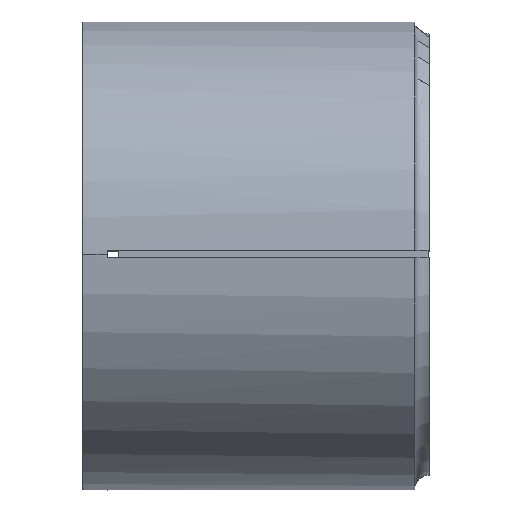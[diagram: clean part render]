
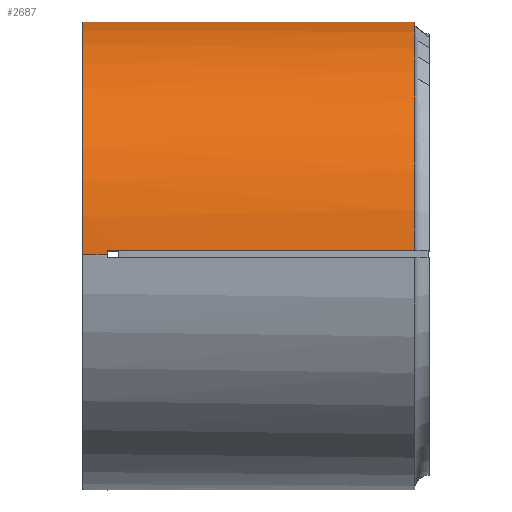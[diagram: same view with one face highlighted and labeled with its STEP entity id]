
A CAD part, top view. The second image highlights one B-rep face of the part: STEP entity #2687.
In plain terms, the highlighted cylindrical face has radius 19 mm (diameter 38 mm), a partial arc.
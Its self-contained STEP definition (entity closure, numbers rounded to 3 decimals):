
#55 = CYLINDRICAL_SURFACE('',#56,19.);
#56 = AXIS2_PLACEMENT_3D('',#57,#58,#59);
#57 = CARTESIAN_POINT('',(-15.4,0.,0.));
#58 = DIRECTION('',(1.,0.,0.));
#59 = DIRECTION('',(-0.,0.,1.));
#106 = VERTEX_POINT('',#107);
#107 = CARTESIAN_POINT('',(-13.4,0.,19.));
#122 = PLANE('',#123);
#123 = AXIS2_PLACEMENT_3D('',#124,#125,#126);
#124 = CARTESIAN_POINT('',(-13.4,-0.3,-20.));
#125 = DIRECTION('',(1.,0.,-0.));
#126 = DIRECTION('',(0.,0.,1.));
#134 = EDGE_CURVE('',#135,#106,#137,.T.);
#135 = VERTEX_POINT('',#136);
#136 = CARTESIAN_POINT('',(-15.4,0.,19.));
#137 = SURFACE_CURVE('',#138,(#142,#149),.PCURVE_S1.);
#138 = LINE('',#139,#140);
#139 = CARTESIAN_POINT('',(-15.4,0.,19.));
#140 = VECTOR('',#141,1.);
#141 = DIRECTION('',(1.,0.,0.));
#142 = PCURVE('',#55,#143);
#143 = DEFINITIONAL_REPRESENTATION('',(#144),#148);
#144 = LINE('',#145,#146);
#145 = CARTESIAN_POINT('',(0.,-0.));
#146 = VECTOR('',#147,1.);
#147 = DIRECTION('',(0.,1.));
#148 = ( GEOMETRIC_REPRESENTATION_CONTEXT(2) 
PARAMETRIC_REPRESENTATION_CONTEXT() REPRESENTATION_CONTEXT('2D SPACE',''
  ) );
#149 = PCURVE('',#150,#155);
#150 = CYLINDRICAL_SURFACE('',#151,19.);
#151 = AXIS2_PLACEMENT_3D('',#152,#153,#154);
#152 = CARTESIAN_POINT('',(-15.4,0.,0.));
#153 = DIRECTION('',(1.,0.,0.));
#154 = DIRECTION('',(-0.,0.,1.));
#155 = DEFINITIONAL_REPRESENTATION('',(#156),#160);
#156 = LINE('',#157,#158);
#157 = CARTESIAN_POINT('',(6.283,-0.));
#158 = VECTOR('',#159,1.);
#159 = DIRECTION('',(0.,1.));
#160 = ( GEOMETRIC_REPRESENTATION_CONTEXT(2) 
PARAMETRIC_REPRESENTATION_CONTEXT() REPRESENTATION_CONTEXT('2D SPACE',''
  ) );
#179 = PLANE('',#180);
#180 = AXIS2_PLACEMENT_3D('',#181,#182,#183);
#181 = CARTESIAN_POINT('',(-15.4,0.,0.));
#182 = DIRECTION('',(1.,0.,0.));
#183 = DIRECTION('',(-0.,0.,1.));
#2493 = EDGE_CURVE('',#2494,#135,#2496,.T.);
#2494 = VERTEX_POINT('',#2495);
#2495 = CARTESIAN_POINT('',(-15.4,18.762,3.));
#2496 = SURFACE_CURVE('',#2497,(#2502,#2509),.PCURVE_S1.);
#2497 = CIRCLE('',#2498,19.);
#2498 = AXIS2_PLACEMENT_3D('',#2499,#2500,#2501);
#2499 = CARTESIAN_POINT('',(-15.4,0.,0.));
#2500 = DIRECTION('',(1.,0.,0.));
#2501 = DIRECTION('',(-0.,0.,1.));
#2502 = PCURVE('',#179,#2503);
#2503 = DEFINITIONAL_REPRESENTATION('',(#2504),#2508);
#2504 = CIRCLE('',#2505,19.);
#2505 = AXIS2_PLACEMENT_2D('',#2506,#2507);
#2506 = CARTESIAN_POINT('',(0.,0.));
#2507 = DIRECTION('',(1.,0.));
#2508 = ( GEOMETRIC_REPRESENTATION_CONTEXT(2) 
PARAMETRIC_REPRESENTATION_CONTEXT() REPRESENTATION_CONTEXT('2D SPACE',''
  ) );
#2509 = PCURVE('',#150,#2510);
#2510 = DEFINITIONAL_REPRESENTATION('',(#2511),#2515);
#2511 = LINE('',#2512,#2513);
#2512 = CARTESIAN_POINT('',(0.,0.));
#2513 = VECTOR('',#2514,1.);
#2514 = DIRECTION('',(1.,0.));
#2515 = ( GEOMETRIC_REPRESENTATION_CONTEXT(2) 
PARAMETRIC_REPRESENTATION_CONTEXT() REPRESENTATION_CONTEXT('2D SPACE',''
  ) );
#2553 = PLANE('',#2554);
#2554 = AXIS2_PLACEMENT_3D('',#2555,#2556,#2557);
#2555 = CARTESIAN_POINT('',(-16.4,18.4,3.));
#2556 = DIRECTION('',(0.,0.,1.));
#2557 = DIRECTION('',(1.,0.,-0.));
#2687 = ADVANCED_FACE('',(#2688),#150,.T.);
#2688 = FACE_BOUND('',#2689,.T.);
#2689 = EDGE_LOOP('',(#2690,#2691,#2692,#2716,#2742,#2771));
#2690 = ORIENTED_EDGE('',*,*,#2493,.T.);
#2691 = ORIENTED_EDGE('',*,*,#134,.T.);
#2692 = ORIENTED_EDGE('',*,*,#2693,.F.);
#2693 = EDGE_CURVE('',#2694,#106,#2696,.T.);
#2694 = VERTEX_POINT('',#2695);
#2695 = CARTESIAN_POINT('',(-13.4,0.3,18.998));
#2696 = SURFACE_CURVE('',#2697,(#2702,#2709),.PCURVE_S1.);
#2697 = CIRCLE('',#2698,19.);
#2698 = AXIS2_PLACEMENT_3D('',#2699,#2700,#2701);
#2699 = CARTESIAN_POINT('',(-13.4,0.,0.));
#2700 = DIRECTION('',(1.,0.,0.));
#2701 = DIRECTION('',(-0.,0.,1.));
#2702 = PCURVE('',#150,#2703);
#2703 = DEFINITIONAL_REPRESENTATION('',(#2704),#2708);
#2704 = LINE('',#2705,#2706);
#2705 = CARTESIAN_POINT('',(0.,2.));
#2706 = VECTOR('',#2707,1.);
#2707 = DIRECTION('',(1.,0.));
#2708 = ( GEOMETRIC_REPRESENTATION_CONTEXT(2) 
PARAMETRIC_REPRESENTATION_CONTEXT() REPRESENTATION_CONTEXT('2D SPACE',''
  ) );
#2709 = PCURVE('',#122,#2710);
#2710 = DEFINITIONAL_REPRESENTATION('',(#2711),#2715);
#2711 = CIRCLE('',#2712,19.);
#2712 = AXIS2_PLACEMENT_2D('',#2713,#2714);
#2713 = CARTESIAN_POINT('',(20.,-0.3));
#2714 = DIRECTION('',(1.,0.));
#2715 = ( GEOMETRIC_REPRESENTATION_CONTEXT(2) 
PARAMETRIC_REPRESENTATION_CONTEXT() REPRESENTATION_CONTEXT('2D SPACE',''
  ) );
#2716 = ORIENTED_EDGE('',*,*,#2717,.T.);
#2717 = EDGE_CURVE('',#2694,#2718,#2720,.T.);
#2718 = VERTEX_POINT('',#2719);
#2719 = CARTESIAN_POINT('',(11.4,0.3,18.998));
#2720 = SURFACE_CURVE('',#2721,(#2725,#2731),.PCURVE_S1.);
#2721 = LINE('',#2722,#2723);
#2722 = CARTESIAN_POINT('',(-15.4,0.3,18.998));
#2723 = VECTOR('',#2724,1.);
#2724 = DIRECTION('',(1.,0.,0.));
#2725 = PCURVE('',#150,#2726);
#2726 = DEFINITIONAL_REPRESENTATION('',(#2727),#2730);
#2727 = B_SPLINE_CURVE_WITH_KNOTS('',1,(#2728,#2729),.UNSPECIFIED.,.F.,
  .F.,(2,2),(0.,28.),.PIECEWISE_BEZIER_KNOTS.);
#2728 = CARTESIAN_POINT('',(6.267,0.));
#2729 = CARTESIAN_POINT('',(6.267,28.));
#2730 = ( GEOMETRIC_REPRESENTATION_CONTEXT(2) 
PARAMETRIC_REPRESENTATION_CONTEXT() REPRESENTATION_CONTEXT('2D SPACE',''
  ) );
#2731 = PCURVE('',#2732,#2737);
#2732 = PLANE('',#2733);
#2733 = AXIS2_PLACEMENT_3D('',#2734,#2735,#2736);
#2734 = CARTESIAN_POINT('',(-13.4,0.3,-20.));
#2735 = DIRECTION('',(-0.,1.,0.));
#2736 = DIRECTION('',(0.,0.,1.));
#2737 = DEFINITIONAL_REPRESENTATION('',(#2738),#2741);
#2738 = B_SPLINE_CURVE_WITH_KNOTS('',1,(#2739,#2740),.UNSPECIFIED.,.F.,
  .F.,(2,2),(0.,28.),.PIECEWISE_BEZIER_KNOTS.);
#2739 = CARTESIAN_POINT('',(38.998,-2.));
#2740 = CARTESIAN_POINT('',(38.998,26.));
#2741 = ( GEOMETRIC_REPRESENTATION_CONTEXT(2) 
PARAMETRIC_REPRESENTATION_CONTEXT() REPRESENTATION_CONTEXT('2D SPACE',''
  ) );
#2742 = ORIENTED_EDGE('',*,*,#2743,.F.);
#2743 = EDGE_CURVE('',#2744,#2718,#2746,.T.);
#2744 = VERTEX_POINT('',#2745);
#2745 = CARTESIAN_POINT('',(11.4,18.762,3.));
#2746 = SURFACE_CURVE('',#2747,(#2752,#2759),.PCURVE_S1.);
#2747 = CIRCLE('',#2748,19.);
#2748 = AXIS2_PLACEMENT_3D('',#2749,#2750,#2751);
#2749 = CARTESIAN_POINT('',(11.4,0.,0.));
#2750 = DIRECTION('',(1.,0.,0.));
#2751 = DIRECTION('',(-0.,0.,1.));
#2752 = PCURVE('',#150,#2753);
#2753 = DEFINITIONAL_REPRESENTATION('',(#2754),#2758);
#2754 = LINE('',#2755,#2756);
#2755 = CARTESIAN_POINT('',(0.,26.8));
#2756 = VECTOR('',#2757,1.);
#2757 = DIRECTION('',(1.,0.));
#2758 = ( GEOMETRIC_REPRESENTATION_CONTEXT(2) 
PARAMETRIC_REPRESENTATION_CONTEXT() REPRESENTATION_CONTEXT('2D SPACE',''
  ) );
#2759 = PCURVE('',#2760,#2765);
#2760 = TOROIDAL_SURFACE('',#2761,19.,1.2);
#2761 = AXIS2_PLACEMENT_3D('',#2762,#2763,#2764);
#2762 = CARTESIAN_POINT('',(12.6,0.,0.));
#2763 = DIRECTION('',(1.,0.,0.));
#2764 = DIRECTION('',(-0.,0.,1.));
#2765 = DEFINITIONAL_REPRESENTATION('',(#2766),#2770);
#2766 = LINE('',#2767,#2768);
#2767 = CARTESIAN_POINT('',(0.,4.712));
#2768 = VECTOR('',#2769,1.);
#2769 = DIRECTION('',(1.,0.));
#2770 = ( GEOMETRIC_REPRESENTATION_CONTEXT(2) 
PARAMETRIC_REPRESENTATION_CONTEXT() REPRESENTATION_CONTEXT('2D SPACE',''
  ) );
#2771 = ORIENTED_EDGE('',*,*,#2772,.F.);
#2772 = EDGE_CURVE('',#2494,#2744,#2773,.T.);
#2773 = SURFACE_CURVE('',#2774,(#2778,#2784),.PCURVE_S1.);
#2774 = LINE('',#2775,#2776);
#2775 = CARTESIAN_POINT('',(-15.4,18.762,3.));
#2776 = VECTOR('',#2777,1.);
#2777 = DIRECTION('',(1.,0.,0.));
#2778 = PCURVE('',#150,#2779);
#2779 = DEFINITIONAL_REPRESENTATION('',(#2780),#2783);
#2780 = B_SPLINE_CURVE_WITH_KNOTS('',1,(#2781,#2782),.UNSPECIFIED.,.F.,
  .F.,(2,2),(0.,28.),.PIECEWISE_BEZIER_KNOTS.);
#2781 = CARTESIAN_POINT('',(4.871,0.));
#2782 = CARTESIAN_POINT('',(4.871,28.));
#2783 = ( GEOMETRIC_REPRESENTATION_CONTEXT(2) 
PARAMETRIC_REPRESENTATION_CONTEXT() REPRESENTATION_CONTEXT('2D SPACE',''
  ) );
#2784 = PCURVE('',#2553,#2785);
#2785 = DEFINITIONAL_REPRESENTATION('',(#2786),#2789);
#2786 = B_SPLINE_CURVE_WITH_KNOTS('',1,(#2787,#2788),.UNSPECIFIED.,.F.,
  .F.,(2,2),(0.,28.),.PIECEWISE_BEZIER_KNOTS.);
#2787 = CARTESIAN_POINT('',(1.,0.362));
#2788 = CARTESIAN_POINT('',(29.,0.362));
#2789 = ( GEOMETRIC_REPRESENTATION_CONTEXT(2) 
PARAMETRIC_REPRESENTATION_CONTEXT() REPRESENTATION_CONTEXT('2D SPACE',''
  ) );
